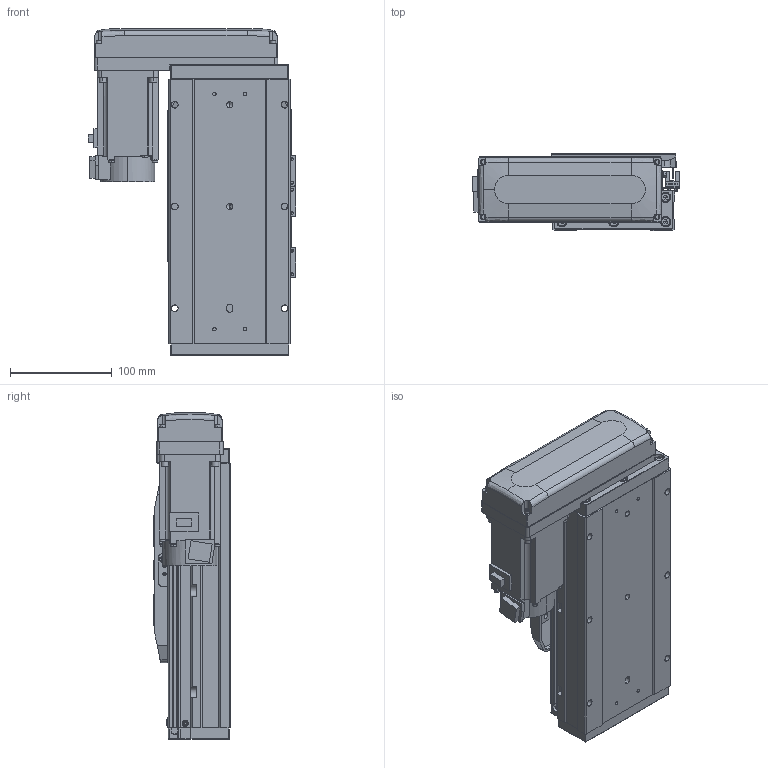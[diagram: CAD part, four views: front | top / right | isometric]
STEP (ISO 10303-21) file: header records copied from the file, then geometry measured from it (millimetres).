
FILE_DESCRIPTION (( 'STEP AP203' ), '1' );
FILE_NAME ('GTH12-50-BR-M40-C4.step', '2025-07-16T03:44:35', ( '' ), ( '' ), 'SwSTEP 2.0', 'SolidWorks 2023', '' );
FILE_SCHEMA (( 'CONFIG_CONTROL_DESIGN' ));
Length unit declared in the file: millimetre
Products named in the file (18): hg-kn43j_-s100_; GBT 70.1-M3×6; GTH80-028; GBT 70.3-M3×8; GTH120-004; GTH12-50-BR-M40-C4; GTH120-013; GTH120-003; GTH50-024; BTH-M3X5X6; GTH120-027-1_GTH120-027-2; GBT 70.1-M5×16; GTH120-001_50; GTH80-022; CTHA86-033_M40B; GBT96.1-2002 3×0.8; GTH50-023; GTH120-006
Assembly tree (59 placements, depth 2):
  GTH12-50-BR-M40-C4
    GTH120-001_50
    GTH120-003
    GTH120-006
    GTH120-004
    GTH120-013
    GBT 70.1-M3×6  x14
    GBT 70.1-M5×16  x10
    GBT 70.3-M3×8  x4
    GTH80-022
    GTH80-028  x2
    GTH50-023  x3
    GTH50-024  x3
    GBT96.1-2002 3×0.8  x6
    BTH-M3X5X6  x8
    hg-kn43j_-s100_
    CTHA86-033_M40B
    GTH120-027-1_GTH120-027-2
Bounding box: 203.5 x 76 x 320.5 mm (x, y, z)
Volume: 2944119.5 mm3; surface area: 381340.5 mm2
Topology: 61 solids, 61 shells, 2315 faces, 5356 edges, 3283 vertices
Faces by surface type: plane 1216, cylinder 643, cone 268, torus 174, sphere 8, bspline 6
Entity records: 41578 total; most frequent: CARTESIAN_POINT 7040, DIRECTION 6820, ORIENTED_EDGE 6322, EDGE_CURVE 3161, AXIS2_PLACEMENT_3D 2384, LINE 2052, VECTOR 2052, VERTEX_POINT 2004
